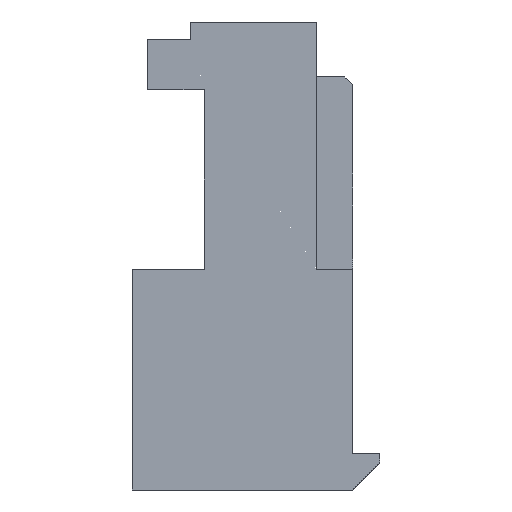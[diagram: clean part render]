
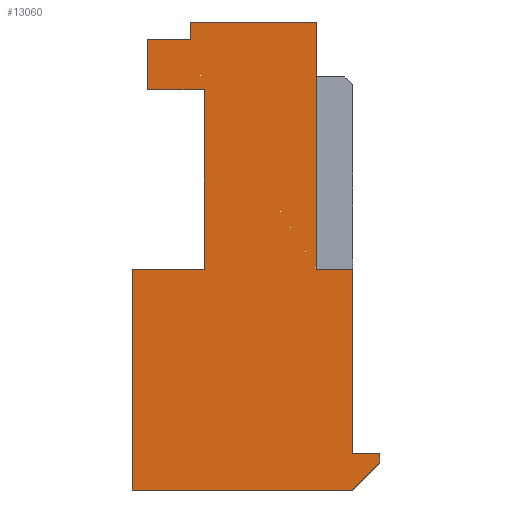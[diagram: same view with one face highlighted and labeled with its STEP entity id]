
A CAD part, left-side view. The second image highlights one B-rep face of the part: STEP entity #13060.
In plain terms, the highlighted planar face has unit normal (-1, 0, 0).
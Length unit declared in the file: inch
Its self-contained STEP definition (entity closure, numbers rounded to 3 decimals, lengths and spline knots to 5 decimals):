
#574 = VERTEX_POINT ( 'NONE', #1212 ) ;
#576 = VERTEX_POINT ( 'NONE', #1214 ) ;
#580 = VERTEX_POINT ( 'NONE', #1218 ) ;
#581 = VERTEX_POINT ( 'NONE', #1219 ) ;
#582 = VERTEX_POINT ( 'NONE', #1220 ) ;
#583 = VERTEX_POINT ( 'NONE', #1221 ) ;
#584 = VERTEX_POINT ( 'NONE', #1222 ) ;
#585 = VERTEX_POINT ( 'NONE', #1223 ) ;
#586 = VERTEX_POINT ( 'NONE', #1224 ) ;
#605 = VERTEX_POINT ( 'NONE', #1179 ) ;
#606 = VERTEX_POINT ( 'NONE', #1180 ) ;
#609 = VERTEX_POINT ( 'NONE', #1183 ) ;
#610 = VERTEX_POINT ( 'NONE', #1184 ) ;
#917 = VERTEX_POINT ( 'NONE', #1293 ) ;
#919 = VERTEX_POINT ( 'NONE', #1295 ) ;
#1179 = CARTESIAN_POINT ( 'NONE',  ( -0.25, 0.115, -0.075 ) ) ;
#1180 = CARTESIAN_POINT ( 'NONE',  ( -0.25, 0.052, -0.075 ) ) ;
#1183 = CARTESIAN_POINT ( 'NONE',  ( -0.25, -0.073, -0.275 ) ) ;
#1184 = CARTESIAN_POINT ( 'NONE',  ( -0.25, -0.113, -0.275 ) ) ;
#1212 = CARTESIAN_POINT ( 'NONE',  ( -0.25, 0.132, -0.52 ) ) ;
#1214 = CARTESIAN_POINT ( 'NONE',  ( -0.25, 0.132, -0.275 ) ) ;
#1218 = CARTESIAN_POINT ( 'NONE',  ( -0.25, 0.115, -0.019 ) ) ;
#1219 = CARTESIAN_POINT ( 'NONE',  ( -0.25, 0.052, -0.275 ) ) ;
#1220 = CARTESIAN_POINT ( 'NONE',  ( -0.25, -0.113, -0.52 ) ) ;
#1221 = CARTESIAN_POINT ( 'NONE',  ( -0.25, -0.143, -0.48 ) ) ;
#1222 = CARTESIAN_POINT ( 'NONE',  ( -0.25, -0.113, -0.48 ) ) ;
#1223 = CARTESIAN_POINT ( 'NONE',  ( -0.25, 0.067, 0. ) ) ;
#1224 = CARTESIAN_POINT ( 'NONE',  ( -0.25, 0.067, -0.019 ) ) ;
#1293 = CARTESIAN_POINT ( 'NONE',  ( -0.25, -0.143, -0.49 ) ) ;
#1295 = CARTESIAN_POINT ( 'NONE',  ( -0.25, -0.073, 0. ) ) ;
#2502 = ORIENTED_EDGE ( 'NONE', *, *, #13326, .F. ) ;
#2503 = ORIENTED_EDGE ( 'NONE', *, *, #13226, .F. ) ;
#2504 = ORIENTED_EDGE ( 'NONE', *, *, #13320, .F. ) ;
#2505 = ORIENTED_EDGE ( 'NONE', *, *, #13335, .F. ) ;
#2506 = ORIENTED_EDGE ( 'NONE', *, *, #13342, .F. ) ;
#2507 = ORIENTED_EDGE ( 'NONE', *, *, #13340, .F. ) ;
#2508 = ORIENTED_EDGE ( 'NONE', *, *, #13316, .F. ) ;
#2509 = ORIENTED_EDGE ( 'NONE', *, *, #13314, .F. ) ;
#2510 = ORIENTED_EDGE ( 'NONE', *, *, #13315, .F. ) ;
#2511 = ORIENTED_EDGE ( 'NONE', *, *, #13310, .F. ) ;
#2512 = ORIENTED_EDGE ( 'NONE', *, *, #13210, .T. ) ;
#2513 = ORIENTED_EDGE ( 'NONE', *, *, #13313, .F. ) ;
#2514 = ORIENTED_EDGE ( 'NONE', *, *, #13309, .F. ) ;
#2515 = ORIENTED_EDGE ( 'NONE', *, *, #13301, .F. ) ;
#2516 = ORIENTED_EDGE ( 'NONE', *, *, #13323, .F. ) ;
#5146 = AXIS2_PLACEMENT_3D ( 'NONE', #10039, #10045, #10046 ) ;
#7561 = FACE_OUTER_BOUND ( 'NONE', #14149, .T. ) ;
#7773 = LINE ( 'NONE', #10394, #7832 ) ;
#7832 = VECTOR ( 'NONE', #10397, 39.37008 ) ;
#7841 = LINE ( 'NONE', #10416, #7864 ) ;
#7864 = VECTOR ( 'NONE', #10429, 39.37008 ) ;
#7939 = LINE ( 'NONE', #10614, #8058 ) ;
#8014 = LINE ( 'NONE', #10578, #8015 ) ;
#8015 = VECTOR ( 'NONE', #10579, 39.37008 ) ;
#8030 = LINE ( 'NONE', #10594, #8031 ) ;
#8031 = VECTOR ( 'NONE', #10595, 39.37008 ) ;
#8032 = LINE ( 'NONE', #10596, #8033 ) ;
#8033 = VECTOR ( 'NONE', #10597, 39.37008 ) ;
#8038 = LINE ( 'NONE', #10602, #8039 ) ;
#8039 = VECTOR ( 'NONE', #10603, 39.37008 ) ;
#8040 = LINE ( 'NONE', #10604, #8041 ) ;
#8041 = VECTOR ( 'NONE', #10605, 39.37008 ) ;
#8042 = LINE ( 'NONE', #10606, #8043 ) ;
#8043 = VECTOR ( 'NONE', #10607, 39.37008 ) ;
#8044 = LINE ( 'NONE', #10608, #8045 ) ;
#8045 = VECTOR ( 'NONE', #10609, 39.37008 ) ;
#8051 = LINE ( 'NONE', #10642, #8082 ) ;
#8052 = LINE ( 'NONE', #10616, #8053 ) ;
#8053 = VECTOR ( 'NONE', #10617, 39.37008 ) ;
#8058 = VECTOR ( 'NONE', #10623, 39.37008 ) ;
#8059 = LINE ( 'NONE', #10646, #8092 ) ;
#8064 = LINE ( 'NONE', #10628, #8065 ) ;
#8065 = VECTOR ( 'NONE', #10629, 39.37008 ) ;
#8082 = VECTOR ( 'NONE', #10647, 39.37008 ) ;
#8092 = VECTOR ( 'NONE', #10657, 39.37008 ) ;
#8096 = LINE ( 'NONE', #10660, #8097 ) ;
#8097 = VECTOR ( 'NONE', #10661, 39.37008 ) ;
#10036 = PLANE ( 'NONE',  #5146 ) ;
#10039 = CARTESIAN_POINT ( 'NONE',  ( -0.25, 0., 0. ) ) ;
#10045 = DIRECTION ( 'NONE',  ( 1., 0., 0. ) ) ;
#10046 = DIRECTION ( 'NONE',  ( 0., 0., -1. ) ) ;
#10394 = CARTESIAN_POINT ( 'NONE',  ( -0.25, -0.113, -0.275 ) ) ;
#10397 = DIRECTION ( 'NONE',  ( 0., 1., 0. ) ) ;
#10416 = CARTESIAN_POINT ( 'NONE',  ( -0.25, 0.052, -0.075 ) ) ;
#10429 = DIRECTION ( 'NONE',  ( 0., 1., 0. ) ) ;
#10578 = CARTESIAN_POINT ( 'NONE',  ( -0.25, 0.067, 0. ) ) ;
#10579 = DIRECTION ( 'NONE',  ( 0., 0., 1. ) ) ;
#10594 = CARTESIAN_POINT ( 'NONE',  ( -0.25, 0., 0. ) ) ;
#10595 = DIRECTION ( 'NONE',  ( 0., -1., 0. ) ) ;
#10596 = CARTESIAN_POINT ( 'NONE',  ( -0.25, -0.113, 0. ) ) ;
#10597 = DIRECTION ( 'NONE',  ( 0., 0., -1. ) ) ;
#10602 = CARTESIAN_POINT ( 'NONE',  ( -0.25, -0.073, 0. ) ) ;
#10603 = DIRECTION ( 'NONE',  ( 0., 0., -1. ) ) ;
#10604 = CARTESIAN_POINT ( 'NONE',  ( -0.25, -0.143, 0. ) ) ;
#10605 = DIRECTION ( 'NONE',  ( 0., 0., -1. ) ) ;
#10606 = CARTESIAN_POINT ( 'NONE',  ( -0.25, 0., -0.48 ) ) ;
#10607 = DIRECTION ( 'NONE',  ( 0., -1., 0. ) ) ;
#10608 = CARTESIAN_POINT ( 'NONE',  ( -0.25, -0.143, -0.49 ) ) ;
#10609 = DIRECTION ( 'NONE',  ( 0., 0.707, -0.707 ) ) ;
#10614 = CARTESIAN_POINT ( 'NONE',  ( -0.25, 0., -0.019 ) ) ;
#10616 = CARTESIAN_POINT ( 'NONE',  ( -0.25, 0.052, 0. ) ) ;
#10617 = DIRECTION ( 'NONE',  ( 0., 0., 1. ) ) ;
#10623 = DIRECTION ( 'NONE',  ( 0., -1., 0. ) ) ;
#10628 = CARTESIAN_POINT ( 'NONE',  ( -0.25, 0.115, 0. ) ) ;
#10629 = DIRECTION ( 'NONE',  ( 0., 0., 1. ) ) ;
#10642 = CARTESIAN_POINT ( 'NONE',  ( -0.25, 0., -0.275 ) ) ;
#10646 = CARTESIAN_POINT ( 'NONE',  ( -0.25, 0., -0.52 ) ) ;
#10647 = DIRECTION ( 'NONE',  ( 0., -1., 0. ) ) ;
#10657 = DIRECTION ( 'NONE',  ( 0., 1., 0. ) ) ;
#10660 = CARTESIAN_POINT ( 'NONE',  ( -0.25, 0.132, -0.52 ) ) ;
#10661 = DIRECTION ( 'NONE',  ( 0., 0., 1. ) ) ;
#13060 = ADVANCED_FACE ( 'NONE', ( #7561 ), #10036, .F. ) ;
#13210 = EDGE_CURVE ( 'NONE', #610, #609, #7773, .T. ) ;
#13226 = EDGE_CURVE ( 'NONE', #606, #605, #7841, .T. ) ;
#13301 = EDGE_CURVE ( 'NONE', #586, #585, #8014, .T. ) ;
#13309 = EDGE_CURVE ( 'NONE', #585, #919, #8030, .T. ) ;
#13310 = EDGE_CURVE ( 'NONE', #610, #584, #8032, .T. ) ;
#13313 = EDGE_CURVE ( 'NONE', #919, #609, #8038, .T. ) ;
#13314 = EDGE_CURVE ( 'NONE', #583, #917, #8040, .T. ) ;
#13315 = EDGE_CURVE ( 'NONE', #584, #583, #8042, .T. ) ;
#13316 = EDGE_CURVE ( 'NONE', #917, #582, #8044, .T. ) ;
#13320 = EDGE_CURVE ( 'NONE', #581, #606, #8052, .T. ) ;
#13323 = EDGE_CURVE ( 'NONE', #580, #586, #7939, .T. ) ;
#13326 = EDGE_CURVE ( 'NONE', #605, #580, #8064, .T. ) ;
#13335 = EDGE_CURVE ( 'NONE', #576, #581, #8051, .T. ) ;
#13340 = EDGE_CURVE ( 'NONE', #582, #574, #8059, .T. ) ;
#13342 = EDGE_CURVE ( 'NONE', #574, #576, #8096, .T. ) ;
#14149 = EDGE_LOOP ( 'NONE', ( #2502, #2503, #2504, #2505, #2506, #2507, #2508, #2509, #2510, #2511, #2512, #2513, #2514, #2515, #2516 ) ) ;
